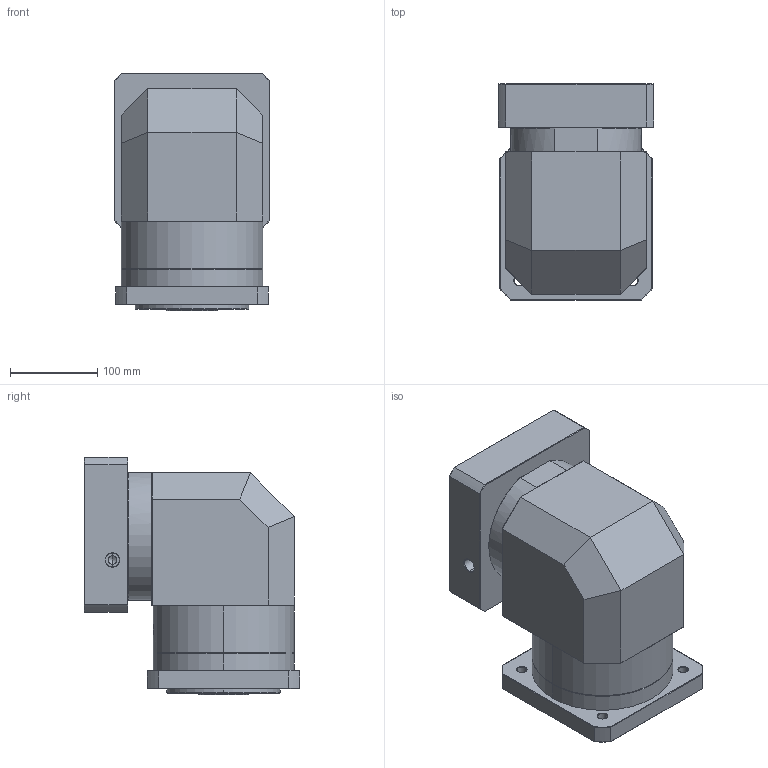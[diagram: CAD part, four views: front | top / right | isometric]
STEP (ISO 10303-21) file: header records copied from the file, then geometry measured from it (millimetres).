
FILE_DESCRIPTION (( 'STEP AP214' ), '1' );
FILE_NAME ('ZFR160A-K35-L1-P2-35-114.3-200-M12.step', '2023-09-03T09:01:17', ( '' ), ( '' ), 'SwSTEP 2.0', 'SolidWorks 2016', '' );
FILE_SCHEMA (( 'AUTOMOTIVE_DESIGN' ));
Length unit declared in the file: millimetre
Products named in the file (1): ZFR160A-K35-L1-P2-35-114.3-200-M12
Bounding box: 178 x 247.5 x 272.7 mm (x, y, z)
Volume: 6940281.8 mm3; surface area: 460608.2 mm2
Topology: 6 solids, 6 shells, 2133 faces, 5645 edges, 3619 vertices
Faces by surface type: plane 1039, bspline 403, cylinder 367, cone 304, torus 20
Entity records: 118257 total; most frequent: CARTESIAN_POINT 47003, ORIENTED_EDGE 11234, DIRECTION 8157, EDGE_CURVE 5617, VERTEX_POINT 3619, VECTOR 3025, LINE 3025, AXIS2_PLACEMENT_3D 2566
